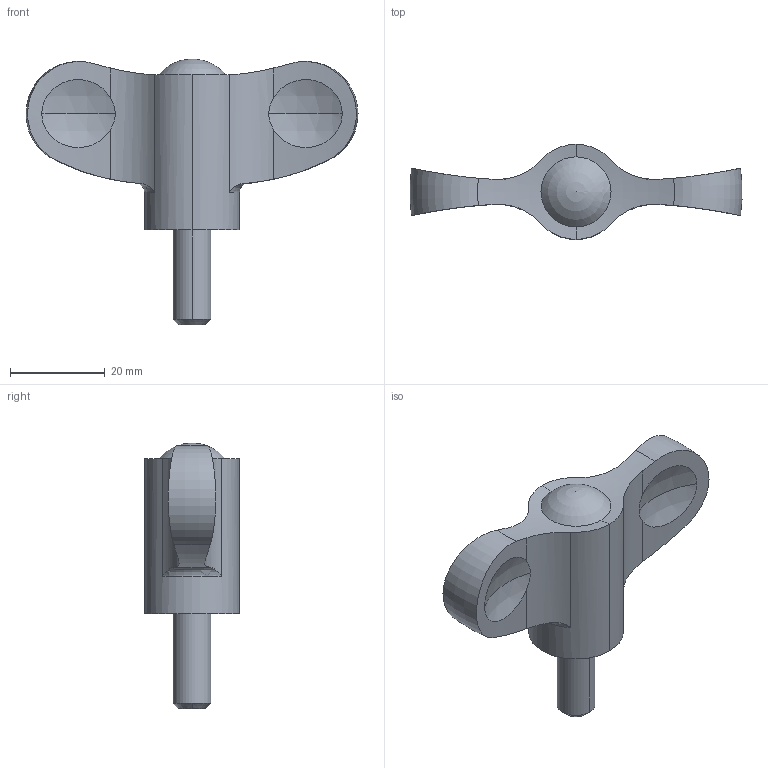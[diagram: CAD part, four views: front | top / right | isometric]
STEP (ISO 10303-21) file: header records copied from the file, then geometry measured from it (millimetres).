
FILE_DESCRIPTION (( 'STEP AP203' ), '1' );
FILE_NAME ('ewn70x20-br.STEP', '2021-10-25T02:29:04', ( '' ), ( '' ), 'SwSTEP 2.0', 'SolidWorks 2020', '' );
FILE_SCHEMA (( 'CONFIG_CONTROL_DESIGN' ));
Length unit declared in the file: millimetre
Products named in the file (1): ewn70x20-br
Bounding box: 69.93 x 20 x 56 mm (x, y, z)
Volume: 18123.9 mm3; surface area: 5912.3 mm2
Topology: 1 solids, 1 shells, 37 faces, 107 edges, 72 vertices
Faces by surface type: cylinder 16, sphere 9, torus 8, cone 2, plane 2
Entity records: 1897 total; most frequent: CARTESIAN_POINT 920, ORIENTED_EDGE 208, DIRECTION 166, EDGE_CURVE 104, AXIS2_PLACEMENT_3D 72, VERTEX_POINT 70, B_SPLINE_CURVE_WITH_KNOTS 48, EDGE_LOOP 38
